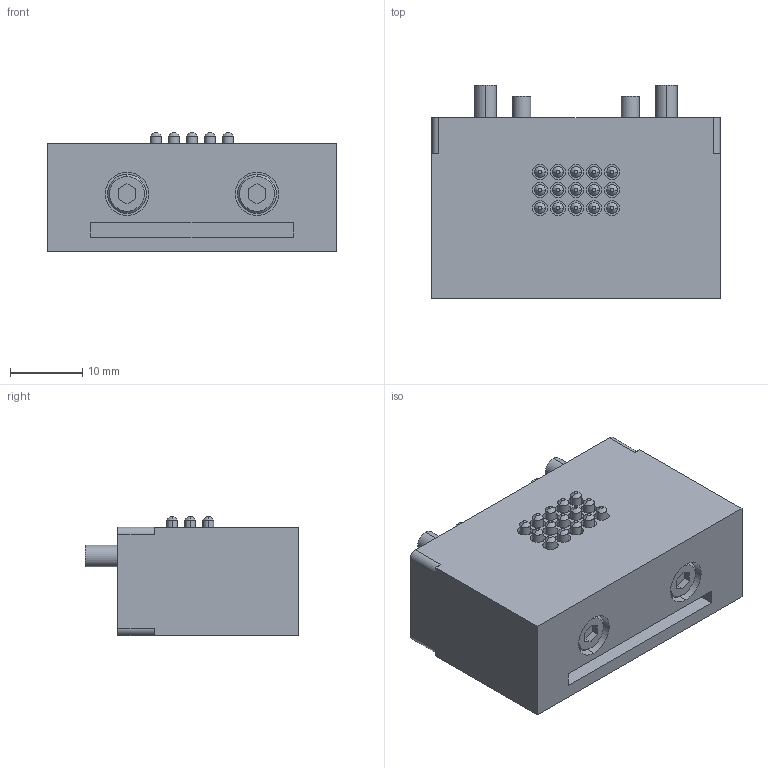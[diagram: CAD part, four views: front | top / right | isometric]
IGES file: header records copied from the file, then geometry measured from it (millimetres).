
Start section: 3D InterOp IGES (v. 2022 1.0.0), Spatial Corp. Copyright (c) 1999-2020.
Global section: file name: KHB-7~25HS-D315_ver1.igs; native system: Spatial Corp.; preprocessor: 3D InterOp GENERIC/IGES 3.0; author: Noname; organization: Noname; date: 20260427.110957; units: millimetre
Bounding box: 40 x 29.5 x 16.5 mm (x, y, z)
Surface area: 6900.6 mm2 (no closed solid volume)
Topology: 0 solids, 0 shells, 341 faces, 1484 edges, 1484 vertices
Faces by surface type: revolution 183, extrusion 158
